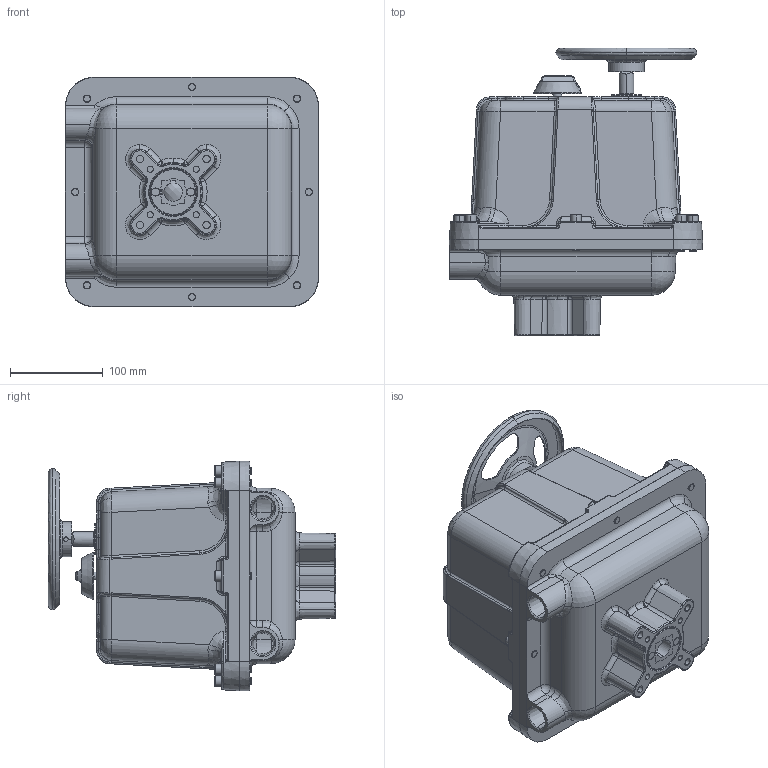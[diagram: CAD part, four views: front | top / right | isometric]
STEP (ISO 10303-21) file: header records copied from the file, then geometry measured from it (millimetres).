
FILE_DESCRIPTION (( 'STEP AP214' ), '1' );
FILE_NAME ('VCD00075.STEP', '2023-02-15T14:49:05', ( '' ), ( '' ), 'SwSTEP 2.0', 'SolidWorks 2020', '' );
FILE_SCHEMA (( 'AUTOMOTIVE_DESIGN' ));
Length unit declared in the file: inch
Products named in the file (7): VC001357_-010; VC001365; VC001355; VC001375; VCD00075; VC003045
Assembly tree (6 placements, depth 3):
  VCD00075
    VC001375
      VC001355
      VC001365
      VC001357_-010
    VC003045
    VCD00075
Bounding box: 273.81 x 310.59 x 248.41 mm (x, y, z)
Volume: 27639 mm3; surface area: 405663.5 mm2
Topology: 4 solids, 25 shells, 1713 faces, 4570 edges, 2863 vertices
Faces by surface type: plane 600, cylinder 586, bspline 349, cone 135, torus 27, sphere 16
Entity records: 78617 total; most frequent: CARTESIAN_POINT 39680, ORIENTED_EDGE 8871, DIRECTION 6634, EDGE_CURVE 4530, VERTEX_POINT 2863, AXIS2_PLACEMENT_3D 2491, EDGE_LOOP 1782, FACE_OUTER_BOUND 1713
